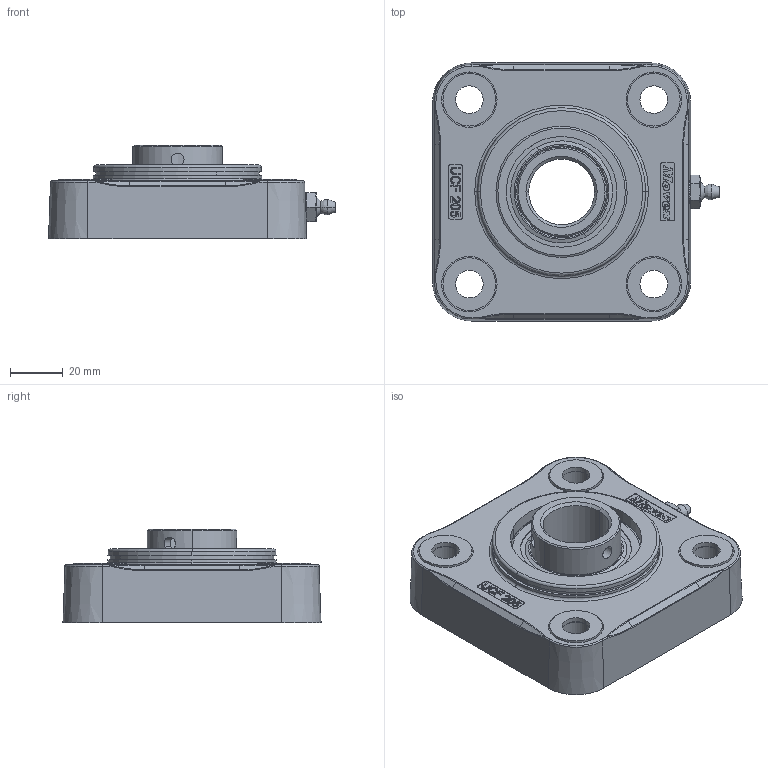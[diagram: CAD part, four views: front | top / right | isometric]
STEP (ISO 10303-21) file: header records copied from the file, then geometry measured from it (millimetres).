
FILE_DESCRIPTION(('CATIA V5 STEP Exchange'),'2;1');
FILE_NAME('\\server01\tecnico\CODICI MOVEX\3D per clienti\Anzalone\28-02-2013\P80701_01.stp','2013-02-28T08:31:48+00:00',('none'),('none'),'CATIA Version 5 Release 21 SP 1 (IN-10)','CATIA V5 STEP AP203','none');
FILE_SCHEMA(('CONFIG_CONTROL_DESIGN'));
Products named in the file (1): Product1
Assembly tree (11 placements, depth 2):
  Product1
    #58
    #59897
    #62873
    #64303  x4
    #64613  x4
Bounding box: 108.88 x 97.93 x 35.5 mm (x, y, z)
Volume: 128557.2 mm3; surface area: 79745.1 mm2
Topology: 24 solids, 40 shells, 2075 faces, 5582 edges, 3545 vertices
Faces by surface type: plane 1462, cylinder 296, sphere 102, cone 70, torus 70, bspline 55, revolution 20
Entity records: 64794 total; most frequent: CARTESIAN_POINT 15905, ORIENTED_EDGE 10808, DIRECTION 8631, EDGE_CURVE 5404, VECTOR 4387, LINE 4387, VERTEX_POINT 3485, AXIS2_PLACEMENT_3D 2440
